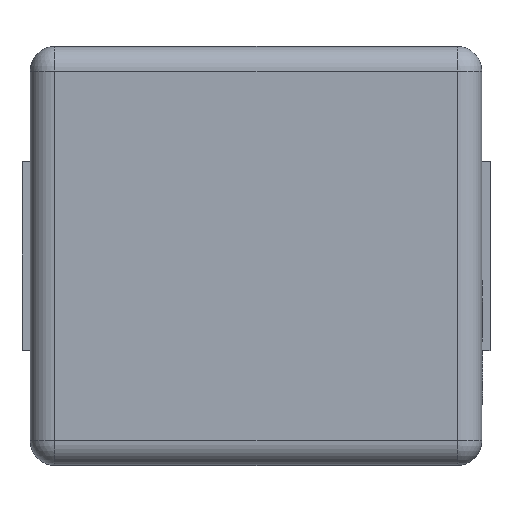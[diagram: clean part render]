
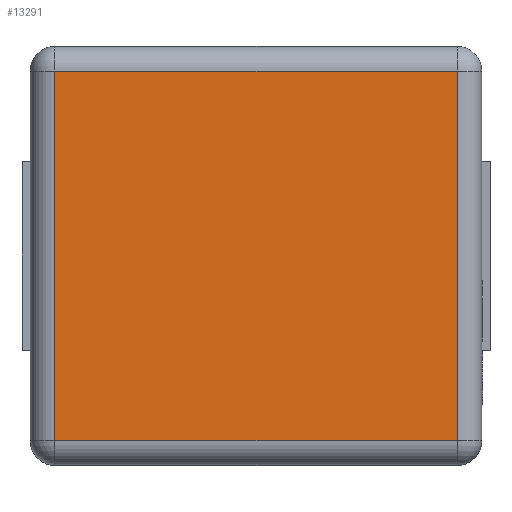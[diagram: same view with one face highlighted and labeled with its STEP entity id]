
A CAD part, top view. The second image highlights one B-rep face of the part: STEP entity #13291.
In plain terms, the highlighted planar face has unit normal (0, 0, 1).
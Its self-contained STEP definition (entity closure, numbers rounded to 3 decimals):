
#151 = ORIENTED_EDGE ( 'NONE', *, *, #262, .T. ) ;
#262 = EDGE_CURVE ( 'NONE', #10463, #10630, #2783, .T. ) ;
#397 = CARTESIAN_POINT ( 'NONE',  ( -2.45, -2.55, 3. ) ) ;
#1056 = DIRECTION ( 'NONE',  ( -1., 0., 0. ) ) ;
#2183 = LINE ( 'NONE', #5358, #14276 ) ;
#2638 = VECTOR ( 'NONE', #6827, 1000. ) ;
#2757 = CARTESIAN_POINT ( 'NONE',  ( -2.45, -2.25, 3. ) ) ;
#2783 = LINE ( 'NONE', #10951, #13926 ) ;
#3660 = DIRECTION ( 'NONE',  ( 0., -1., 0. ) ) ;
#4247 = CARTESIAN_POINT ( 'NONE',  ( 2.75, -2.25, 3. ) ) ;
#5082 = CARTESIAN_POINT ( 'NONE',  ( 2.45, 2.25, 3. ) ) ;
#5358 = CARTESIAN_POINT ( 'NONE',  ( -2.75, 2.25, 3. ) ) ;
#5502 = DIRECTION ( 'NONE',  ( 0., 0., 1. ) ) ;
#5791 = EDGE_CURVE ( 'NONE', #6092, #10623, #8526, .T. ) ;
#6092 = VERTEX_POINT ( 'NONE', #9179 ) ;
#6661 = ORIENTED_EDGE ( 'NONE', *, *, #5791, .T. ) ;
#6827 = DIRECTION ( 'NONE',  ( 1., 0., 0. ) ) ;
#7304 = ORIENTED_EDGE ( 'NONE', *, *, #14523, .T. ) ;
#7383 = DIRECTION ( 'NONE',  ( 0., 1., 0. ) ) ;
#7716 = DIRECTION ( 'NONE',  ( 1., 0., 0. ) ) ;
#7859 = PLANE ( 'NONE',  #8667 ) ;
#8051 = LINE ( 'NONE', #4247, #2638 ) ;
#8377 = VECTOR ( 'NONE', #3660, 1000. ) ;
#8526 = LINE ( 'NONE', #397, #8377 ) ;
#8629 = ORIENTED_EDGE ( 'NONE', *, *, #13935, .T. ) ;
#8667 = AXIS2_PLACEMENT_3D ( 'NONE', #8790, #5502, #7716 ) ;
#8790 = CARTESIAN_POINT ( 'NONE',  ( 0., 0., 3. ) ) ;
#9179 = CARTESIAN_POINT ( 'NONE',  ( -2.45, 2.25, 3. ) ) ;
#10463 = VERTEX_POINT ( 'NONE', #13522 ) ;
#10623 = VERTEX_POINT ( 'NONE', #2757 ) ;
#10630 = VERTEX_POINT ( 'NONE', #5082 ) ;
#10951 = CARTESIAN_POINT ( 'NONE',  ( 2.45, 2.55, 3. ) ) ;
#13291 = ADVANCED_FACE ( 'NONE', ( #14720 ), #7859, .T. ) ;
#13522 = CARTESIAN_POINT ( 'NONE',  ( 2.45, -2.25, 3. ) ) ;
#13926 = VECTOR ( 'NONE', #7383, 1000. ) ;
#13935 = EDGE_CURVE ( 'NONE', #10630, #6092, #2183, .T. ) ;
#14192 = EDGE_LOOP ( 'NONE', ( #6661, #7304, #151, #8629 ) ) ;
#14276 = VECTOR ( 'NONE', #1056, 1000. ) ;
#14523 = EDGE_CURVE ( 'NONE', #10623, #10463, #8051, .T. ) ;
#14720 = FACE_OUTER_BOUND ( 'NONE', #14192, .T. ) ;
